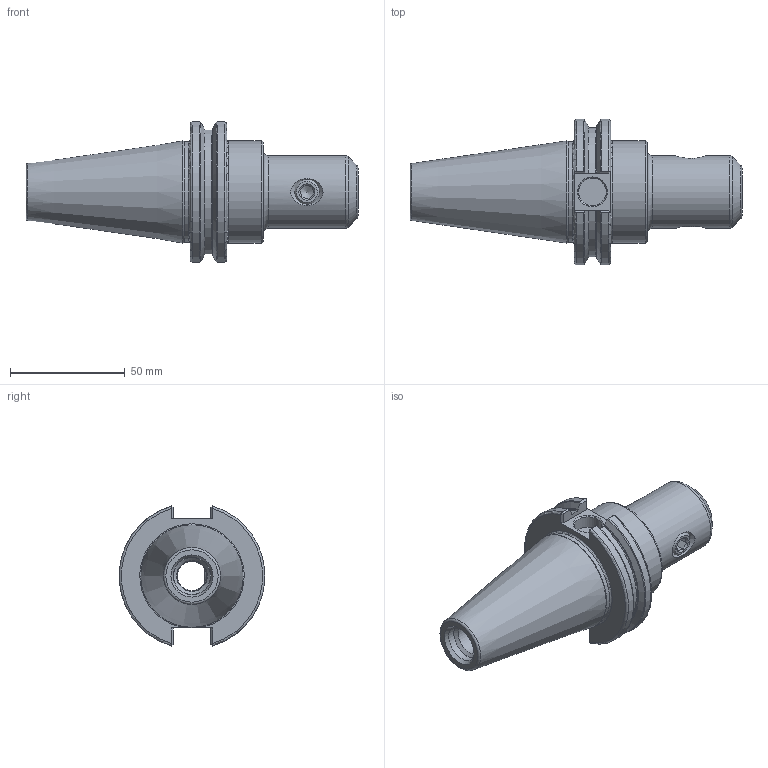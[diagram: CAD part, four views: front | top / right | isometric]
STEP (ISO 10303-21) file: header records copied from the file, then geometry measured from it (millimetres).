
FILE_DESCRIPTION(/* description */ (''),/* implementation_level */ '2;1');
FILE_NAME(/* name */ 'I:\00.2022最新版图纸\SLA---侧固式铣刀柄\侧固刀柄三维模型\CAT40-SLA12.7-76.2.stp',/* time_stamp */ '2022-07-20T10:30:23+08:00',/* author */ ('Administrator'),/* organization */ (''),/* preprocessor_version */ 'ST-DEVELOPER v18.1',/* originating_system */ 'Autodesk Inventor 2022',/* authorisation */ '');
FILE_SCHEMA (('AUTOMOTIVE_DESIGN { 1 0 10303 214 3 1 1 }'));
Length unit declared in the file: millimetre
Products named in the file (3): CAT40-SLA12.7-76; CAT40-12.7-76.2; 7-16-20UNF-9.525
Assembly tree (2 placements, depth 2):
  CAT40-SLA12.7-76
    CAT40-12.7-76.2
    7-16-20UNF-9.525
Bounding box: 144.45 x 63.27 x 60.92 mm (x, y, z)
Volume: 149226.4 mm3; surface area: 28998.1 mm2
Topology: 2 solids, 2 shells, 118 faces, 303 edges, 193 vertices
Faces by surface type: plane 43, torus 20, cylinder 19, cone 19, bspline 16, sphere 1
Full cylindrical faces by diameter (mm): 5 x1, 9.728 x1, 11.113 x1, 11.6 x1, 12 x1, 12.7 x1, 13 x1, 13.5 x1, 13.7 x1, 16.281 x1, 31.75 x1, 43.85 x1, 44.45 x1
Entity records: 4516 total; most frequent: CARTESIAN_POINT 1707, ORIENTED_EDGE 602, DIRECTION 522, EDGE_CURVE 301, AXIS2_PLACEMENT_3D 200, VERTEX_POINT 193, EDGE_LOOP 128, LINE 122
